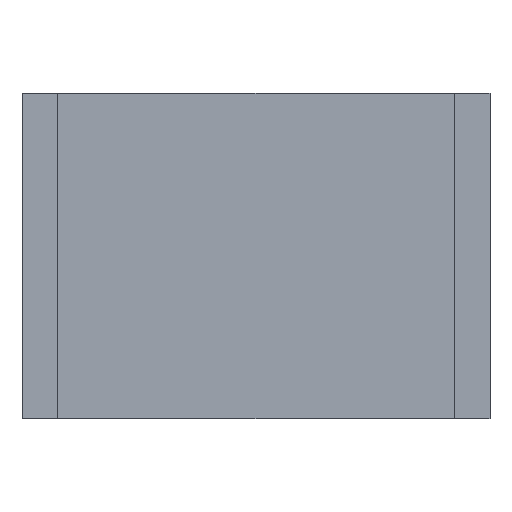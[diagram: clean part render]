
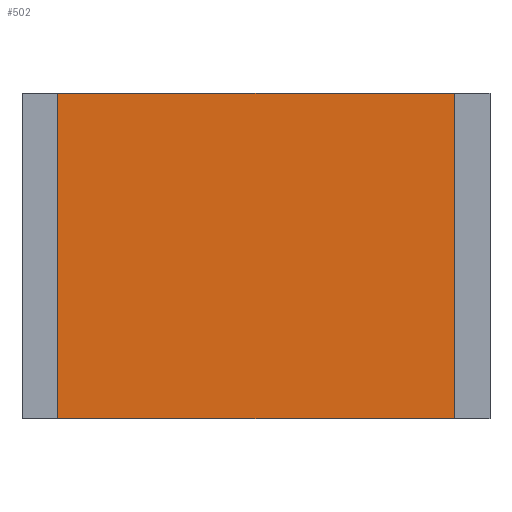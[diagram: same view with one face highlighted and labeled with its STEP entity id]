
A CAD part, top view. The second image highlights one B-rep face of the part: STEP entity #502.
In plain terms, the highlighted planar face has unit normal (0, 0, 1).
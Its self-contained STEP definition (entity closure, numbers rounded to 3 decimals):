
#502=ADVANCED_FACE('',(#850),#852,.T.);
#850=FACE_BOUND('',#851,.T.);
#851=EDGE_LOOP('',(#1096,#1097,#1098,#1099));
#852=PLANE('',#853);
#853=AXIS2_PLACEMENT_3D('',#854,#855,#856);
#854=CARTESIAN_POINT('',(0.,0.,0.495));
#855=DIRECTION('',(0.,0.,1.));
#856=DIRECTION('',(-1.,0.,0.));
#1096=ORIENTED_EDGE('',*,*,#1214,.T.);
#1097=ORIENTED_EDGE('',*,*,#1218,.T.);
#1098=ORIENTED_EDGE('',*,*,#1221,.T.);
#1099=ORIENTED_EDGE('',*,*,#1223,.T.);
#1214=EDGE_CURVE('',#1409,#1407,#1410,.T.);
#1218=EDGE_CURVE('',#1407,#1414,#1416,.T.);
#1221=EDGE_CURVE('',#1414,#1419,#1421,.T.);
#1223=EDGE_CURVE('',#1419,#1409,#1423,.T.);
#1407=VERTEX_POINT('',#1837);
#1409=VERTEX_POINT('',#1841);
#1410=LINE('',#1842,#1843);
#1414=VERTEX_POINT('',#1852);
#1416=LINE('',#1856,#1857);
#1419=VERTEX_POINT('',#1863);
#1421=LINE('',#1867,#1868);
#1423=LINE('',#1873,#1874);
#1837=CARTESIAN_POINT('',(-1.95,1.6,0.495));
#1841=CARTESIAN_POINT('',(1.95,1.6,0.495));
#1842=CARTESIAN_POINT('',(1.95,1.6,0.495));
#1843=VECTOR('',#1844,1.);
#1844=DIRECTION('',(-1.,0.,0.));
#1852=CARTESIAN_POINT('',(-1.95,-1.6,0.495));
#1856=CARTESIAN_POINT('',(-1.95,1.6,0.495));
#1857=VECTOR('',#1858,1.);
#1858=DIRECTION('',(0.,-1.,0.));
#1863=CARTESIAN_POINT('',(1.95,-1.6,0.495));
#1867=CARTESIAN_POINT('',(-1.95,-1.6,0.495));
#1868=VECTOR('',#1869,1.);
#1869=DIRECTION('',(1.,0.,0.));
#1873=CARTESIAN_POINT('',(1.95,-1.6,0.495));
#1874=VECTOR('',#1875,1.);
#1875=DIRECTION('',(0.,1.,0.));
